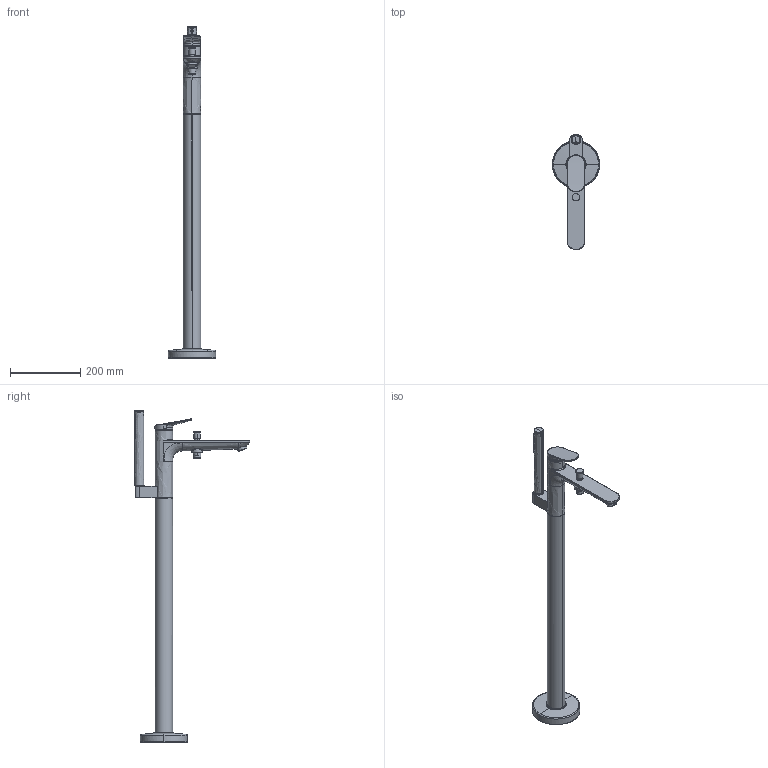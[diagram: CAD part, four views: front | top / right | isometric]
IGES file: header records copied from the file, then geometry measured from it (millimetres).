
Global section: file name: d:\users\matthias.isele\Desktop\Planungsdaten_erstellen\Armaturen\Wave\WA5250000010_WA5250000004_WA5250000034_WA5250000046_WA5250000070\3D\WA5250000010_WA5250000004_WA5250000034_WA5250000046_WA5250000070.igs; native system: Rhinoceros ( Sep 13 2016 ); preprocessor: Trout Lake IGES 012 Sep 13 2016; date: 230105.084558; units: millimetre
Bounding box: 135 x 329.32 x 947.31 mm (x, y, z)
Surface area: 393961.8 mm2 (no closed solid volume)
Topology: 0 solids, 0 shells, 2609 faces, 18820 edges, 18791 vertices
Faces by surface type: bspline 2609
